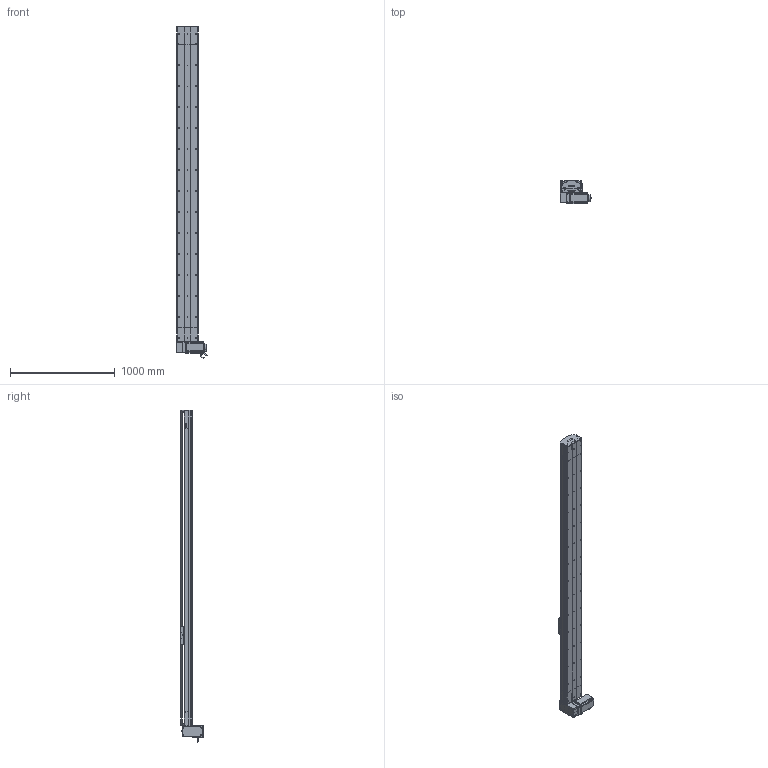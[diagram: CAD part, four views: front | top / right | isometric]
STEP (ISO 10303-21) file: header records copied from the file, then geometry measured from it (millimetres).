
FILE_DESCRIPTION (( 'STEP AP214' ), '1' );
FILE_NAME ('D20 TBH RU S2700.STEP', '2010-07-01T08:16:08', ( 'Conseil Régional Haute-Normandie' ), ( 'Conseil Régional Haute-Normandie' ), 'SwSTEP 2.0', 'SolidWorks 2010', '' );
FILE_SCHEMA (( 'AUTOMOTIVE_DESIGN' ));
Length unit declared in the file: millimetre
Products named in the file (40): Course B L2700_Default; corps 110BLDC170A-630x; clavette; avant 110BLDC170A-630x; Moteur motionking 110BLDC170A-640x; Conecteur_Default; Conecteur2_Default; codeur 110BLDC170A-630x; vis M5 L70_Default; Plaque racord D20LH_Default; corp D20 S2700_Default; couvercle D20 S2700_Default; Renvoi RU D20_Default; cache D20_Default; rail + couroie  D20 S2700; rail head D20; vis M5 L5_Default; couroie_Default; head RU_Default; cache arbre D20_Default; plaque de  bout head D20B RU_Default; corpl head D20_Default; poulie head D20_Default; couvercle head D20_Default; vis M5 L25_Default; vis M5 L12_Default; tete d''axe poulie D20B; rail tail D20; vis M5 L8 90°_Default; couvercle tail D20_Default; Couroie tail D20_Default; plaque de  bout tail D20_Default; poulie tail D20_Default; corpl tail D20 +100_Default; tail D20+100_Default; vis M8 L12_Default; Chariot D20B; chariot D20B_Default; D20 TBH RU S2700; guide D20B
Assembly tree (71 placements, depth 4):
  D20 TBH RU S2700
    tail D20+100_Default
      vis M5 L12_Default  x4
      poulie tail D20_Default
      corpl tail D20 +100_Default
      vis M5 L8 90°_Default  x2
      couvercle tail D20_Default
      rail tail D20
      vis M5 L25_Default  x2
      Couroie tail D20_Default
      plaque de  bout tail D20_Default
      tete d''axe poulie D20B
    chariot D20B_Default
      guide D20B  x2
      vis M5 L12_Default  x4
      Chariot D20B
    head RU_Default
      vis M5 L70_Default  x4
      rail head D20
      Plaque racord D20LH_Default
      couvercle head D20_Default
      vis M5 L12_Default  x10
      cache D20_Default  x2
      vis M5 L25_Default  x2
      vis M5 L5_Default  x4
      cache arbre D20_Default
      vis M8 L12_Default  x4
      Renvoi RU D20_Default
      poulie head D20_Default
      Moteur motionking 110BLDC170A-640x
        codeur 110BLDC170A-630x
        Conecteur_Default
        avant 110BLDC170A-630x
        Conecteur2_Default
        corps 110BLDC170A-630x
        clavette
      couroie_Default
      plaque de  bout head D20B RU_Default
      corpl head D20_Default
    Course B L2700_Default
      couvercle D20 S2700_Default
      rail + couroie  D20 S2700
      corp D20 S2700_Default
Bounding box: 304.2 x 223.2 x 3165 mm (x, y, z)
Volume: 25031277.3 mm3; surface area: 6141883.7 mm2
Topology: 95 solids, 95 shells, 2850 faces, 7314 edges, 4727 vertices
Faces by surface type: plane 1645, cylinder 881, bspline 136, cone 99, torus 89
Entity records: 91987 total; most frequent: CARTESIAN_POINT 29827, ORIENTED_EDGE 11284, DIRECTION 10599, EDGE_CURVE 5642, VERTEX_POINT 3713, LINE 3589, VECTOR 3589, AXIS2_PLACEMENT_3D 3505
